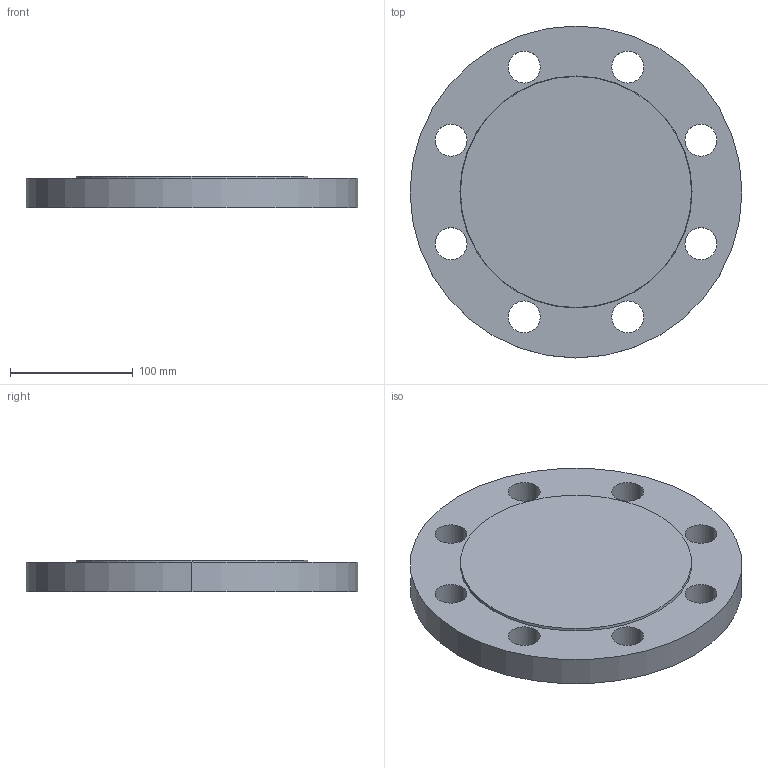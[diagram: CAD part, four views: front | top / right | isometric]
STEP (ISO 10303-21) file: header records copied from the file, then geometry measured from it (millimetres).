
FILE_DESCRIPTION (( 'STEP AP214' ), '1' );
FILE_NAME ('PN40 DN125 Type 05 - Type B Face.STEP', '2019-01-02T19:30:09', ( '' ), ( '' ), 'SwSTEP 2.0', 'SolidWorks 2019', '' );
FILE_SCHEMA (( 'AUTOMOTIVE_DESIGN' ));
Length unit declared in the file: millimetre
Products named in the file (1): PN40 DN125 Type 05 - Type B Face
Bounding box: 270 x 270 x 26 mm (x, y, z)
Volume: 1327921 mm3; surface area: 143049.6 mm2
Topology: 1 solids, 1 shells, 23 faces, 60 edges, 40 vertices
Faces by surface type: cylinder 18, plane 3, cone 2
Entity records: 800 total; most frequent: DIRECTION 148, CARTESIAN_POINT 124, ORIENTED_EDGE 120, AXIS2_PLACEMENT_3D 64, EDGE_CURVE 60, CIRCLE 40, EDGE_LOOP 40, VERTEX_POINT 40
